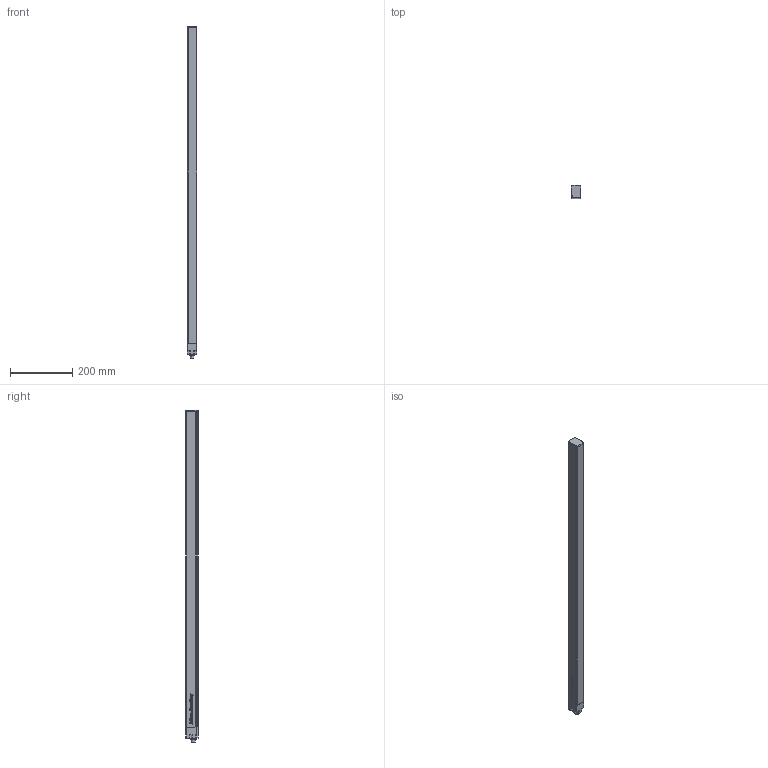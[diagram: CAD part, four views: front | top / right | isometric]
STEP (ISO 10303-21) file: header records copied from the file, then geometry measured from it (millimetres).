
FILE_DESCRIPTION (( 'STEP AP214' ), '1' );
FILE_NAME ('Rockwell Automation-$PARTNUMBER.STEP', '2015-07-08T15:31:47', ( 'Windows User' ), ( '' ), 'SwSTEP 2.0', 'SolidWorks 2015', '' );
FILE_SCHEMA (( 'AUTOMOTIVE_DESIGN' ));
Length unit declared in the file: millimetre
Products named in the file (6): Rockwell Automation-$PARTNUMBER_Rockwell Automation-445L-P4L0840YD_Guardshield Safe 4 ILAS_Standard; Rockwell Automation-$PARTNUMBER_Rockwell Automation-445L-P4L0840YD_Guardshield Safe 4 end cap_Standard; Rockwell Automation-$PARTNUMBER_Rockwell Automation-445L-P4L0840YD_Guardshield Safe 4 connection cap_Standard; Rockwell Automation-$PARTNUMBER_Rockwell Automation-445L-P4L0840YD_Guardshield Safe 4 Profile 30x40_840mm; Rockwell Automation-$PARTNUMBER; Rockwell Automation-$PARTNUMBER_Rockwell Automation-445L-P4L0840YD_Guardshield Safe 4 lumberg_Standard
Assembly tree (5 placements, depth 2):
  Rockwell Automation-$PARTNUMBER
    Rockwell Automation-$PARTNUMBER_Rockwell Automation-445L-P4L0840YD_Guardshield Safe 4 Profile 30x40_840mm
    Rockwell Automation-$PARTNUMBER_Rockwell Automation-445L-P4L0840YD_Guardshield Safe 4 connection cap_Standard
    Rockwell Automation-$PARTNUMBER_Rockwell Automation-445L-P4L0840YD_Guardshield Safe 4 end cap_Standard
    Rockwell Automation-$PARTNUMBER_Rockwell Automation-445L-P4L0840YD_Guardshield Safe 4 ILAS_Standard
    Rockwell Automation-$PARTNUMBER_Rockwell Automation-445L-P4L0840YD_Guardshield Safe 4 lumberg_Standard
Bounding box: 30.6 x 40 x 1064.5 mm (x, y, z)
Volume: 424176 mm3; surface area: 273891.8 mm2
Topology: 5 solids, 5 shells, 626 faces, 1647 edges, 1098 vertices
Faces by surface type: plane 400, bspline 174, cylinder 52
Entity records: 28711 total; most frequent: CARTESIAN_POINT 13473, ORIENTED_EDGE 3294, DIRECTION 2323, EDGE_CURVE 1647, VECTOR 1195, LINE 1195, VERTEX_POINT 1098, EDGE_LOOP 695
